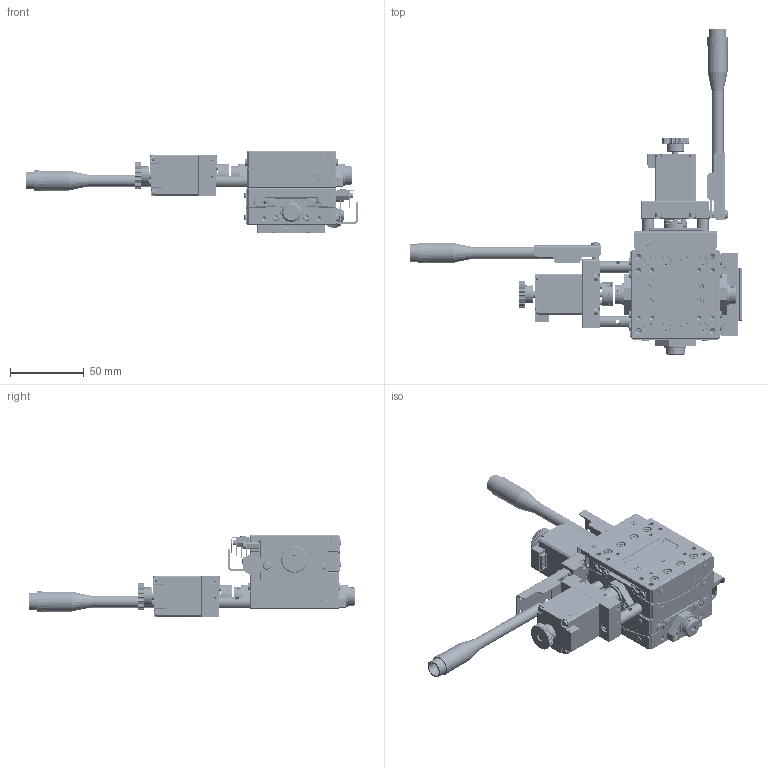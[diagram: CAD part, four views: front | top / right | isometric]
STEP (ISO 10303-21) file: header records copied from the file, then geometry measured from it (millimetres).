
FILE_DESCRIPTION (( 'STEP AP214' ), '1' );
FILE_NAME ('TBA6050-L1-M28R.STEP', '2025-01-03T08:19:23', ( '' ), ( '' ), 'SwSTEP 2.0', 'SolidWorks 2020', '' );
FILE_SCHEMA (( 'AUTOMOTIVE_DESIGN' ));
Length unit declared in the file: millimetre
Products named in the file (3): TBA6050-L1-M28R; TAA6050-L1-M28R; TAA6075-L1-M28R
Assembly tree (2 placements, depth 2):
  TBA6050-L1-M28R
    TAA6050-L1-M28R
    TAA6075-L1-M28R
Bounding box: 224.38 x 220.38 x 55.5 mm (x, y, z)
Volume: 255632.2 mm3; surface area: 137430.8 mm2
Topology: 50 solids, 274 shells, 8466 faces, 21141 edges, 13320 vertices
Faces by surface type: plane 4318, cylinder 2328, cone 793, bspline 507, torus 424, sphere 96
Entity records: 301211 total; most frequent: CARTESIAN_POINT 101210, ORIENTED_EDGE 41470, DIRECTION 40555, EDGE_CURVE 20735, AXIS2_PLACEMENT_3D 14257, VERTEX_POINT 13332, VECTOR 12041, LINE 12041
